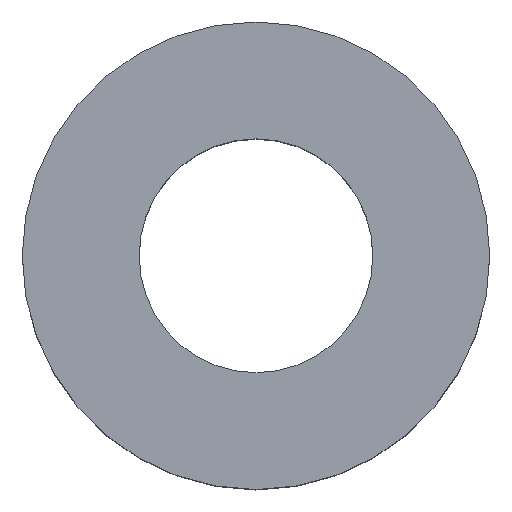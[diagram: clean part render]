
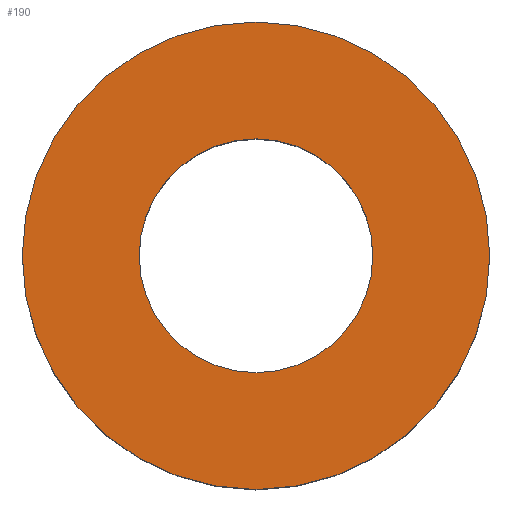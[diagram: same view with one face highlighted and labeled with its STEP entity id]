
A CAD part, top view. The second image highlights one B-rep face of the part: STEP entity #190.
In plain terms, the highlighted planar face has unit normal (0, 0, 1).
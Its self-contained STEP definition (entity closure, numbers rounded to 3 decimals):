
#24 = VERTEX_POINT('',#25);
#25 = CARTESIAN_POINT('',(-23.5,-15.5,68.));
#32 = CYLINDRICAL_SURFACE('',#33,3.5);
#33 = AXIS2_PLACEMENT_3D('',#34,#35,#36);
#34 = CARTESIAN_POINT('',(-27.,-15.5,64.));
#35 = DIRECTION('',(-0.,-0.,-1.));
#36 = DIRECTION('',(1.,0.,0.));
#51 = EDGE_CURVE('',#24,#24,#52,.T.);
#52 = SURFACE_CURVE('',#53,(#58,#65),.PCURVE_S1.);
#53 = CIRCLE('',#54,3.5);
#54 = AXIS2_PLACEMENT_3D('',#55,#56,#57);
#55 = CARTESIAN_POINT('',(-27.,-15.5,68.));
#56 = DIRECTION('',(0.,0.,1.));
#57 = DIRECTION('',(1.,0.,0.));
#58 = PCURVE('',#32,#59);
#59 = DEFINITIONAL_REPRESENTATION('',(#60),#64);
#60 = LINE('',#61,#62);
#61 = CARTESIAN_POINT('',(-0.,-4.));
#62 = VECTOR('',#63,1.);
#63 = DIRECTION('',(-1.,0.));
#64 = ( GEOMETRIC_REPRESENTATION_CONTEXT(2) 
PARAMETRIC_REPRESENTATION_CONTEXT() REPRESENTATION_CONTEXT('2D SPACE',''
  ) );
#65 = PCURVE('',#66,#71);
#66 = PLANE('',#67);
#67 = AXIS2_PLACEMENT_3D('',#68,#69,#70);
#68 = CARTESIAN_POINT('',(-27.,-15.5,68.));
#69 = DIRECTION('',(0.,0.,1.));
#70 = DIRECTION('',(1.,0.,-0.));
#71 = DEFINITIONAL_REPRESENTATION('',(#72),#76);
#72 = CIRCLE('',#73,3.5);
#73 = AXIS2_PLACEMENT_2D('',#74,#75);
#74 = CARTESIAN_POINT('',(0.,0.));
#75 = DIRECTION('',(1.,0.));
#76 = ( GEOMETRIC_REPRESENTATION_CONTEXT(2) 
PARAMETRIC_REPRESENTATION_CONTEXT() REPRESENTATION_CONTEXT('2D SPACE',''
  ) );
#112 = VERTEX_POINT('',#113);
#113 = CARTESIAN_POINT('',(-25.25,-15.5,68.));
#120 = CYLINDRICAL_SURFACE('',#121,1.75);
#121 = AXIS2_PLACEMENT_3D('',#122,#123,#124);
#122 = CARTESIAN_POINT('',(-27.,-15.5,64.));
#123 = DIRECTION('',(-0.,-0.,-1.));
#124 = DIRECTION('',(1.,0.,0.));
#139 = EDGE_CURVE('',#112,#112,#140,.T.);
#140 = SURFACE_CURVE('',#141,(#146,#153),.PCURVE_S1.);
#141 = CIRCLE('',#142,1.75);
#142 = AXIS2_PLACEMENT_3D('',#143,#144,#145);
#143 = CARTESIAN_POINT('',(-27.,-15.5,68.));
#144 = DIRECTION('',(0.,0.,1.));
#145 = DIRECTION('',(1.,0.,0.));
#146 = PCURVE('',#120,#147);
#147 = DEFINITIONAL_REPRESENTATION('',(#148),#152);
#148 = LINE('',#149,#150);
#149 = CARTESIAN_POINT('',(-0.,-4.));
#150 = VECTOR('',#151,1.);
#151 = DIRECTION('',(-1.,0.));
#152 = ( GEOMETRIC_REPRESENTATION_CONTEXT(2) 
PARAMETRIC_REPRESENTATION_CONTEXT() REPRESENTATION_CONTEXT('2D SPACE',''
  ) );
#153 = PCURVE('',#66,#154);
#154 = DEFINITIONAL_REPRESENTATION('',(#155),#159);
#155 = CIRCLE('',#156,1.75);
#156 = AXIS2_PLACEMENT_2D('',#157,#158);
#157 = CARTESIAN_POINT('',(0.,0.));
#158 = DIRECTION('',(1.,0.));
#159 = ( GEOMETRIC_REPRESENTATION_CONTEXT(2) 
PARAMETRIC_REPRESENTATION_CONTEXT() REPRESENTATION_CONTEXT('2D SPACE',''
  ) );
#190 = ADVANCED_FACE('',(#191,#194),#66,.T.);
#191 = FACE_BOUND('',#192,.T.);
#192 = EDGE_LOOP('',(#193));
#193 = ORIENTED_EDGE('',*,*,#51,.T.);
#194 = FACE_BOUND('',#195,.T.);
#195 = EDGE_LOOP('',(#196));
#196 = ORIENTED_EDGE('',*,*,#139,.F.);
